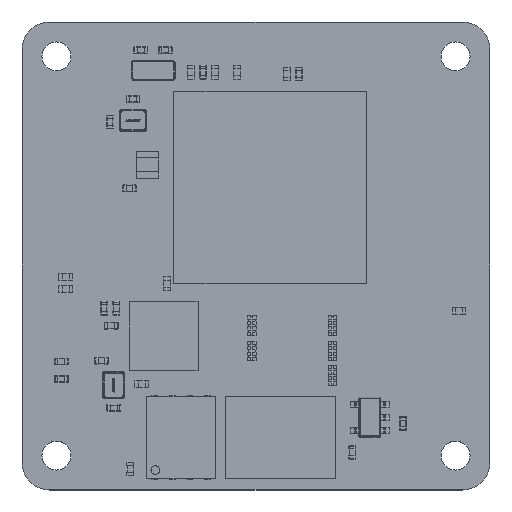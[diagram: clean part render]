
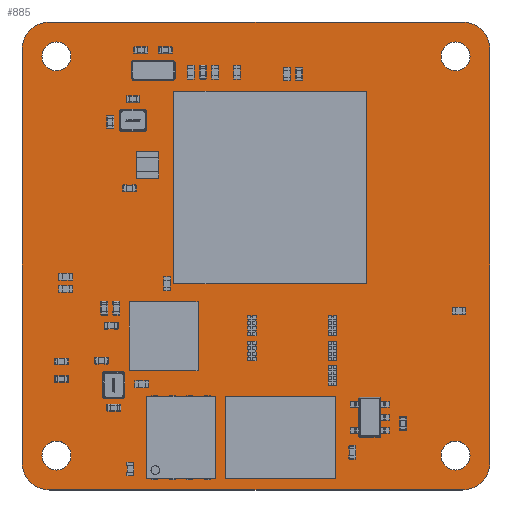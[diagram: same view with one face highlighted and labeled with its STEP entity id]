
A CAD part, top view. The second image highlights one B-rep face of the part: STEP entity #885.
In plain terms, the highlighted planar face has unit normal (0, 0, 1).
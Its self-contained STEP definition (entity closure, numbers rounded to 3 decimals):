
#476 = VERTEX_POINT('',#477);
#477 = CARTESIAN_POINT('',(0.,2.,1.583));
#483 = EDGE_CURVE('',#476,#484,#486,.T.);
#484 = VERTEX_POINT('',#485);
#485 = CARTESIAN_POINT('',(2.,0.,1.583));
#486 = CIRCLE('',#487,2.001);
#487 = AXIS2_PLACEMENT_3D('',#488,#489,#490);
#488 = CARTESIAN_POINT('',(2.001,2.001,1.583));
#489 = DIRECTION('',(0.,0.,1.));
#490 = DIRECTION('',(-1.,0.,0.));
#516 = EDGE_CURVE('',#484,#517,#519,.T.);
#517 = VERTEX_POINT('',#518);
#518 = CARTESIAN_POINT('',(32.,0.,1.583));
#519 = LINE('',#520,#521);
#520 = CARTESIAN_POINT('',(2.,0.,1.583));
#521 = VECTOR('',#522,1.);
#522 = DIRECTION('',(1.,0.,0.));
#547 = EDGE_CURVE('',#517,#548,#550,.T.);
#548 = VERTEX_POINT('',#549);
#549 = CARTESIAN_POINT('',(34.,2.,1.583));
#550 = CIRCLE('',#551,2.001);
#551 = AXIS2_PLACEMENT_3D('',#552,#553,#554);
#552 = CARTESIAN_POINT('',(31.999,2.001,1.583));
#553 = DIRECTION('',(0.,0.,1.));
#554 = DIRECTION('',(0.,-1.,0.));
#580 = EDGE_CURVE('',#548,#581,#583,.T.);
#581 = VERTEX_POINT('',#582);
#582 = CARTESIAN_POINT('',(34.,32.,1.583));
#583 = LINE('',#584,#585);
#584 = CARTESIAN_POINT('',(34.,2.,1.583));
#585 = VECTOR('',#586,1.);
#586 = DIRECTION('',(0.,1.,0.));
#611 = EDGE_CURVE('',#581,#612,#614,.T.);
#612 = VERTEX_POINT('',#613);
#613 = CARTESIAN_POINT('',(32.,34.,1.583));
#614 = CIRCLE('',#615,2.001);
#615 = AXIS2_PLACEMENT_3D('',#616,#617,#618);
#616 = CARTESIAN_POINT('',(31.999,31.999,1.583));
#617 = DIRECTION('',(0.,0.,1.));
#618 = DIRECTION('',(1.,0.,-0.));
#644 = EDGE_CURVE('',#612,#645,#647,.T.);
#645 = VERTEX_POINT('',#646);
#646 = CARTESIAN_POINT('',(2.,34.,1.583));
#647 = LINE('',#648,#649);
#648 = CARTESIAN_POINT('',(32.,34.,1.583));
#649 = VECTOR('',#650,1.);
#650 = DIRECTION('',(-1.,0.,0.));
#675 = EDGE_CURVE('',#645,#676,#678,.T.);
#676 = VERTEX_POINT('',#677);
#677 = CARTESIAN_POINT('',(0.,32.,1.583));
#678 = CIRCLE('',#679,2.001);
#679 = AXIS2_PLACEMENT_3D('',#680,#681,#682);
#680 = CARTESIAN_POINT('',(2.001,31.999,1.583));
#681 = DIRECTION('',(0.,0.,1.));
#682 = DIRECTION('',(0.,1.,0.));
#708 = EDGE_CURVE('',#676,#476,#709,.T.);
#709 = LINE('',#710,#711);
#710 = CARTESIAN_POINT('',(0.,32.,1.583));
#711 = VECTOR('',#712,1.);
#712 = DIRECTION('',(0.,-1.,0.));
#732 = VERTEX_POINT('',#733);
#733 = CARTESIAN_POINT('',(3.55,2.5,1.583));
#739 = EDGE_CURVE('',#732,#732,#740,.T.);
#740 = CIRCLE('',#741,1.05);
#741 = AXIS2_PLACEMENT_3D('',#742,#743,#744);
#742 = CARTESIAN_POINT('',(2.5,2.5,1.583));
#743 = DIRECTION('',(0.,0.,1.));
#744 = DIRECTION('',(1.,0.,-0.));
#765 = VERTEX_POINT('',#766);
#766 = CARTESIAN_POINT('',(3.55,31.5,1.583));
#772 = EDGE_CURVE('',#765,#765,#773,.T.);
#773 = CIRCLE('',#774,1.05);
#774 = AXIS2_PLACEMENT_3D('',#775,#776,#777);
#775 = CARTESIAN_POINT('',(2.5,31.5,1.583));
#776 = DIRECTION('',(0.,0.,1.));
#777 = DIRECTION('',(1.,0.,-0.));
#798 = VERTEX_POINT('',#799);
#799 = CARTESIAN_POINT('',(32.55,2.5,1.583));
#805 = EDGE_CURVE('',#798,#798,#806,.T.);
#806 = CIRCLE('',#807,1.05);
#807 = AXIS2_PLACEMENT_3D('',#808,#809,#810);
#808 = CARTESIAN_POINT('',(31.5,2.5,1.583));
#809 = DIRECTION('',(0.,0.,1.));
#810 = DIRECTION('',(1.,0.,-0.));
#831 = VERTEX_POINT('',#832);
#832 = CARTESIAN_POINT('',(32.55,31.5,1.583));
#838 = EDGE_CURVE('',#831,#831,#839,.T.);
#839 = CIRCLE('',#840,1.05);
#840 = AXIS2_PLACEMENT_3D('',#841,#842,#843);
#841 = CARTESIAN_POINT('',(31.5,31.5,1.583));
#842 = DIRECTION('',(0.,0.,1.));
#843 = DIRECTION('',(1.,0.,-0.));
#885 = ADVANCED_FACE('',(#886,#896,#899,#902,#905),#908,.T.);
#886 = FACE_BOUND('',#887,.T.);
#887 = EDGE_LOOP('',(#888,#889,#890,#891,#892,#893,#894,#895));
#888 = ORIENTED_EDGE('',*,*,#483,.T.);
#889 = ORIENTED_EDGE('',*,*,#516,.T.);
#890 = ORIENTED_EDGE('',*,*,#547,.T.);
#891 = ORIENTED_EDGE('',*,*,#580,.T.);
#892 = ORIENTED_EDGE('',*,*,#611,.T.);
#893 = ORIENTED_EDGE('',*,*,#644,.T.);
#894 = ORIENTED_EDGE('',*,*,#675,.T.);
#895 = ORIENTED_EDGE('',*,*,#708,.T.);
#896 = FACE_BOUND('',#897,.T.);
#897 = EDGE_LOOP('',(#898));
#898 = ORIENTED_EDGE('',*,*,#739,.F.);
#899 = FACE_BOUND('',#900,.T.);
#900 = EDGE_LOOP('',(#901));
#901 = ORIENTED_EDGE('',*,*,#772,.F.);
#902 = FACE_BOUND('',#903,.T.);
#903 = EDGE_LOOP('',(#904));
#904 = ORIENTED_EDGE('',*,*,#805,.F.);
#905 = FACE_BOUND('',#906,.T.);
#906 = EDGE_LOOP('',(#907));
#907 = ORIENTED_EDGE('',*,*,#838,.F.);
#908 = PLANE('',#909);
#909 = AXIS2_PLACEMENT_3D('',#910,#911,#912);
#910 = CARTESIAN_POINT('',(17.,17.,1.583));
#911 = DIRECTION('',(0.,0.,1.));
#912 = DIRECTION('',(1.,0.,-0.));
